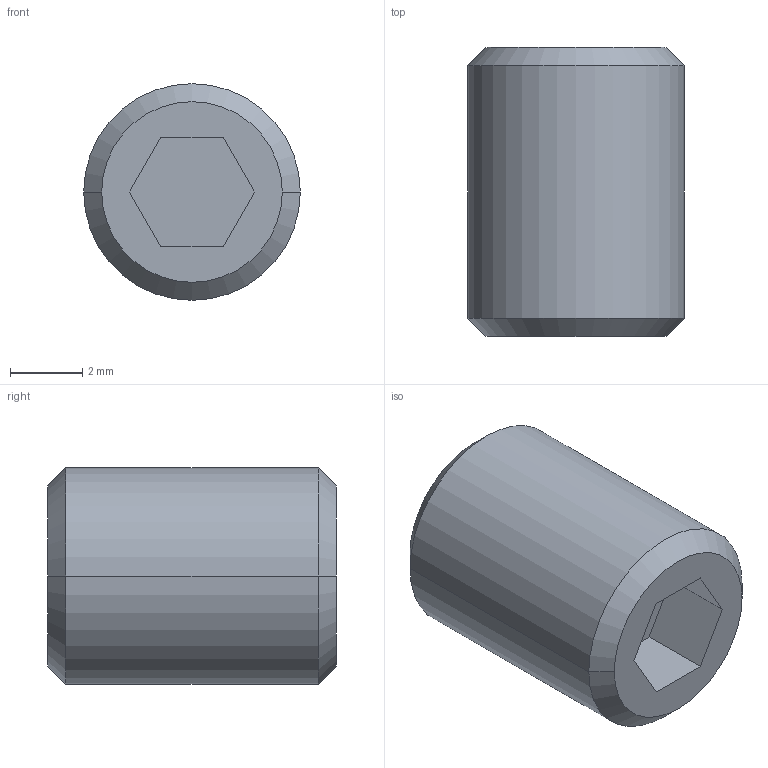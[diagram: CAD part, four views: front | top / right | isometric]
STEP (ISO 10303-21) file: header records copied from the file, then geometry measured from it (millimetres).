
FILE_DESCRIPTION((''),'2;1');
FILE_NAME('VTGEI0608','2002-12-27T',('Lipro doo'),('Lipro d.o.o.'),'PRO/ENGINEER BY PARAMETRIC TECHNOLOGY CORPORATION, 2001150','PRO/ENGINEER BY PARAMETRIC TECHNOLOGY CORPORATION, 2001150','');
FILE_SCHEMA(('CONFIG_CONTROL_DESIGN'));
Length unit declared in the file: millimetre
Products named in the file (1): VTGEI0608
Bounding box: 6 x 8 x 6 mm (x, y, z)
Volume: 206.2 mm3; surface area: 342.1 mm2
Topology: 1 solids, 2 shells, 17 faces, 38 edges, 24 vertices
Faces by surface type: plane 9, cone 4, cylinder 4
Entity records: 516 total; most frequent: DIRECTION 86, CARTESIAN_POINT 80, ORIENTED_EDGE 72, EDGE_CURVE 38, AXIS2_PLACEMENT_3D 30, VECTOR 26, LINE 26, VERTEX_POINT 24
